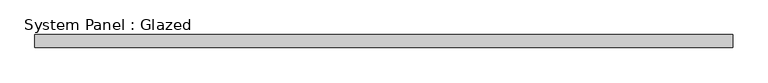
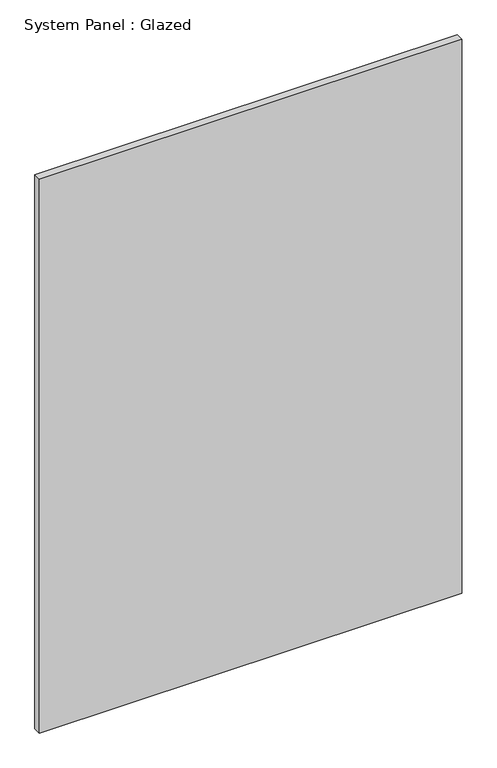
"""IFC4 building model written with IfcOpenShell, lengths in millimetres: plate geometry, System Panel : Glazed."""

from ifc_helpers import new_model, si_unit, origin, origin_with_axes, place, context, project, spatial, polyline, outline, extrude, source, transform, mapped, element, save


def system_panel_glazed_d02f8e2e(model_context):
    return source(origin(), model_context, "Body", "SweptSolid", [
        extrude(outline(polyline([(677.375, 19.05), (-677.375, 19.05), (-677.375, 44.45), (677.375, 44.45), (677.375, 19.05)])), origin_with_axes(), (0.0, 0.0, 1.0), 1877.109504),
    ])


if __name__ == "__main__":
    model = new_model("IFC4")
    model_context = context("Model", 3, world=origin())
    ifc_project = project(units=[si_unit("LENGTHUNIT", "METRE", prefix="MILLI")], contexts=[model_context])
    site = spatial("IfcSite", under=ifc_project)
    building = spatial("IfcBuilding", under=site)
    placement = place(None, origin())
    system_panel_glazed_shape = system_panel_glazed_d02f8e2e(model_context)
    element("IfcPlate", 1, ObjectType="System Panel : Glazed", at=placement, inside=building, context=model_context, shape_type="MappedRepresentation", body=[
        mapped(system_panel_glazed_shape, transform((0.0, 0.0, 0.0), x_axis=(1.0, 0.0, 0.0), y_axis=(0.0, 1.0, 0.0), z_axis=(0.0, 0.0, 1.0))),
    ])
    save(model, "model.ifc")
